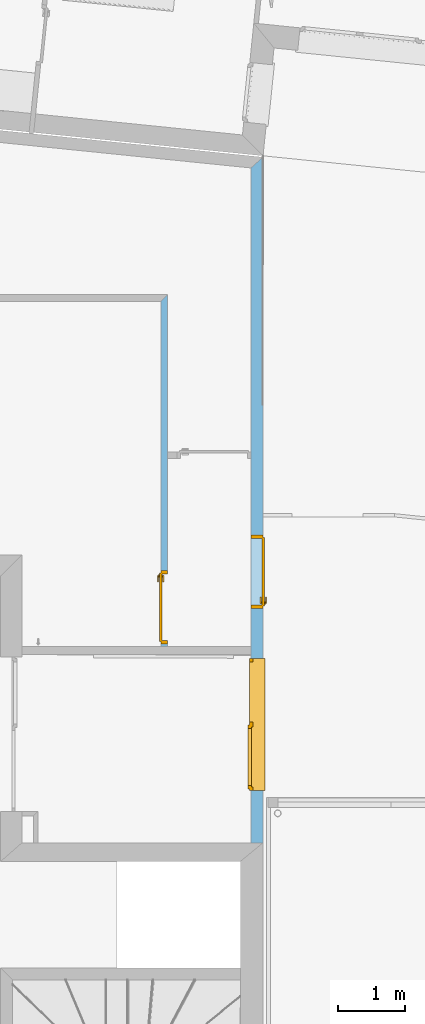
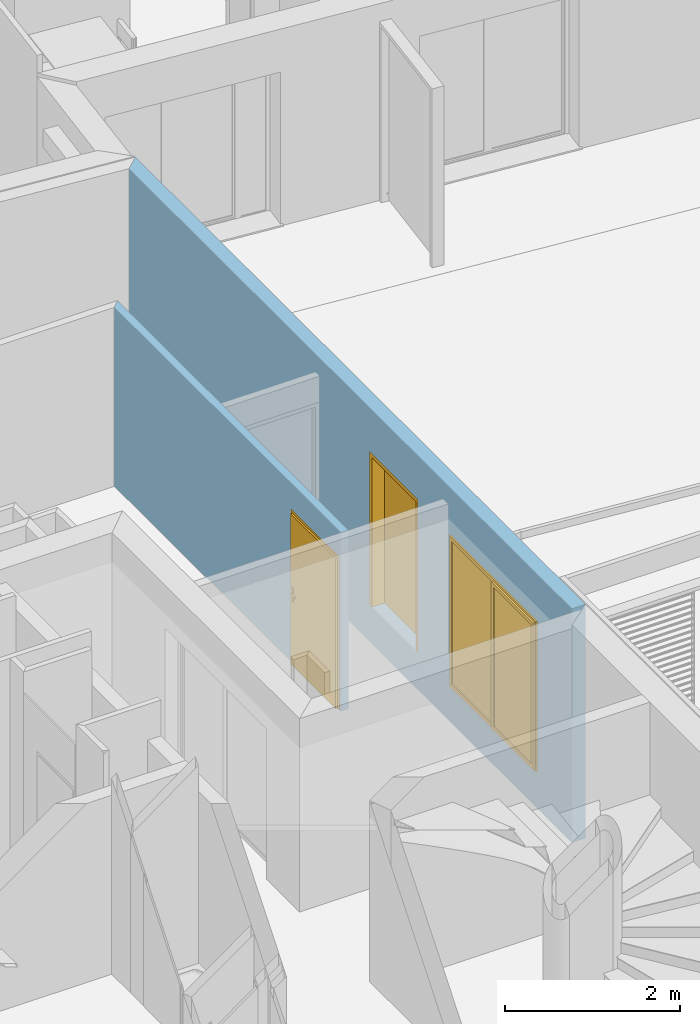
# One storey, part 109 of 171: 2 doors, 1 window, 3 openings, plus 2 elements that do not belong to this part.
"""IFC2X3 building model written with IfcOpenShell, lengths in millimetres."""

from ifc_helpers import new_model, entity, si_unit, converted_unit, derived_unit, money_unit, direction, frame, origin_with_axes, origin_2d_with_axis, place, context, subcontext, project, spatial, polyline, rectangle, outline, extrude, open_shell, faceted_brep, surface_model, material, layer, layer_set, layer_usage, type_object, element, fill, save


model = new_model("IFC2X3")

# Units and contexts
model_context = context("Model", 3, precision=0.01, world=origin_with_axes(), true_north=direction((0.0, 1.0)))
body_context = subcontext(model_context, "Body", "Model", "MODEL_VIEW")
ifc_project = project(units=[si_unit("LENGTHUNIT", "METRE", prefix="MILLI"), si_unit("AREAUNIT", "SQUARE_METRE"), si_unit("VOLUMEUNIT", "CUBIC_METRE"), converted_unit("PLANEANGLEUNIT", "DEGREE", entity("IfcPlaneAngleMeasure", 0.0174532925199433), si_unit("PLANEANGLEUNIT", "RADIAN"), dimensions=[0, 0, 0, 0, 0, 0, 0]), money_unit("USD"), converted_unit("TIMEUNIT", "Year", entity("IfcTimeMeasure", 31557600.0), si_unit("TIMEUNIT", "SECOND"), dimensions=[0, 0, 1, 0, 0, 0, 0]), si_unit("MASSUNIT", "GRAM", prefix="KILO"), si_unit("THERMODYNAMICTEMPERATUREUNIT", "DEGREE_CELSIUS"), si_unit("LUMINOUSINTENSITYUNIT", "LUMEN"), si_unit("ENERGYUNIT", "JOULE", prefix="MEGA"), derived_unit("THERMALCONDUCTANCEUNIT", [(si_unit("POWERUNIT", "WATT"), 1), (si_unit("LENGTHUNIT", "METRE"), -1), (si_unit("THERMODYNAMICTEMPERATUREUNIT", "KELVIN"), -1)]), derived_unit("SPECIFICHEATCAPACITYUNIT", [(si_unit("ENERGYUNIT", "JOULE"), 1), (si_unit("MASSUNIT", "GRAM", prefix="KILO"), -1), (si_unit("THERMODYNAMICTEMPERATUREUNIT", "KELVIN"), -1)]), derived_unit("MASSDENSITYUNIT", [(si_unit("MASSUNIT", "GRAM", prefix="KILO"), 1), (si_unit("VOLUMEUNIT", "CUBIC_METRE"), -1)])], contexts=[model_context])

# Site, building, storey
site_placement = place(None, origin_with_axes())
site = spatial("IfcSite", under=ifc_project, at=site_placement, Name="Site", CompositionType="ELEMENT")
building_placement = place(site_placement, origin_with_axes())
building = spatial("IfcBuilding", under=site, at=building_placement, Name="Bâtiment", CompositionType="ELEMENT")
storey_placement = place(building_placement, frame((0.0, 0.0, 3000.0), z_axis=(0.0, 0.0, 1.0), x_axis=(1.0, 0.0, 0.0)))
storey = spatial("IfcBuildingStorey", under=building, at=storey_placement, Name="rdc", CompositionType="ELEMENT", Elevation=3000.0)

# Wall, opening, door
ifc_material_1 = material(Name="Brique 1 268964100")
ifc_layer_1 = layer(ifc_material_1, 100.0, ventilated="UNKNOWN")
ifc_layer_set_1 = layer_set([ifc_layer_1], Name="Cloison 100 gaine")
ifc_layer_usage_1 = layer_usage(ifc_layer_set_1, "AXIS2", "POSITIVE", 0.0)
wall_type_1 = type_object("IfcWallType", Name="Cloison 100 gaine 100", PredefinedType="NOTDEFINED")
wall_1_placement = place(storey_placement, frame((2228223.476037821, -629505.4724459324, 0.0), z_axis=(0.0, 0.0, 1.0), x_axis=(0.0, 1.0, 0.0)))
wall_1 = element("IfcWallStandardCase", 1, at=wall_1_placement, inside=storey, type_object=wall_type_1, material=ifc_layer_usage_1, Name="Mur-133", context=body_context, shape_type="SweptSolid", body=[
    extrude(outline(polyline([(119.9999999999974, 0.0), (5407.290801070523, 0.0), (5307.290801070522, 100.0000000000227), (119.9999999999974, 100.0000000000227), (119.9999999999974, 0.0)])), origin_with_axes(), (0.0, 0.0, 1.0), 2500.0),
])
opening_1_placement = place(wall_1_placement, frame((711.860139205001, 2.273736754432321e-10, 0.0), z_axis=(0.0, 0.0, 1.0), x_axis=(1.0, 0.0, 0.0)))
opening_1 = element("IfcOpeningElement", 2, at=opening_1_placement, cuts=wall_1, Name="Por-301", context=body_context, shape_type="SweptSolid", body=[
    extrude(rectangle(XDim=1109.999997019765, YDim=2140.0, at=origin_2d_with_axis()), frame((1.490114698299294e-06, -100.0000000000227, 1070.0), z_axis=(0.0, -1.0, 0.0), x_axis=(-1.0, 0.0, 0.0)), (0.0, 0.0, -1.0), 200.0),
])
door_style = type_object("IfcDoorStyle", Name="Porte_1v", ConstructionType="NOTDEFINED", OperationType="NOTDEFINED", ParameterTakesPrecedence=False, Sizeable=False)
door_1_placement = place(opening_1_placement, frame((-514.9999999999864, 2.273736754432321e-10, 0.0), z_axis=(0.0, 0.0, 1.0), x_axis=(1.0, 0.0, 0.0)))
door_1 = element("IfcDoor", 3, at=door_1_placement, inside=storey, type_object=door_style, Name="Por-301", OverallHeight=2100.0, OverallWidth=1030.0, context=body_context, shape_type="Brep", body=[
    faceted_brep([(-39.99999999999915, 100.0000000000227, 0.0), (-39.99999999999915, 100.0000000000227, 2140.0), (1070.0, 100.0000000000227, 2140.0), (1070.0, 100.0000000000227, 0.0), (1030.000000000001, 100.0000000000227, 0.0), (1030.000000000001, 100.0000000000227, 2100.0), (0.0, 100.0000000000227, 2100.0), (0.0, 100.0000000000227, 0.0), (-39.99999999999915, 0.0, 0.0), (-39.99999999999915, 0.0, 2140.0), (1070.0, 0.0, 2140.0), (1070.0, 0.0, 0.0), (1015.000000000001, 0.0, 0.0), (1015.000000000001, 85.00000000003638, 0.0), (1030.000000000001, 85.00000000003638, 0.0), (1030.000000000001, 85.00000000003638, 2100.0), (0.0, 85.00000000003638, 2100.0), (0.0, 85.00000000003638, 0.0), (15.00000000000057, 85.00000000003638, 0.0), (15.00000000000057, 0.0, 0.0), (15.00000000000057, 0.0, 2085.0), (1015.000000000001, 0.0, 2085.0), (1015.000000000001, 85.00000000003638, 2085.0), (15.00000000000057, 85.00000000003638, 2085.0)], [[[0, 1, 2, 3, 4, 5, 6, 7]], [[8, 9, 1, 0]], [[9, 10, 2, 1]], [[10, 11, 3, 2]], [[3, 11, 12, 13, 14, 4]], [[5, 4, 14, 15]], [[6, 5, 15, 16]], [[7, 6, 16, 17]], [[0, 7, 17, 18, 19, 8]], [[19, 20, 21, 12, 11, 10, 9, 8]], [[22, 13, 12, 21]], [[17, 16, 15, 14, 13, 22, 23, 18]], [[18, 23, 20, 19]], [[23, 22, 21, 20]]]),
    faceted_brep([(965.0000000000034, 85.00000000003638, 899.9999999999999), (965.0000000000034, 85.00000000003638, 1100.0), (1005.000000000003, 85.00000000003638, 1100.0), (1005.000000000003, 85.00000000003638, 899.9999999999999), (965.0000000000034, 75.00000000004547, 899.9999999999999), (965.0000000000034, 75.00000000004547, 1100.0), (1005.000000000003, 75.00000000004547, 1100.0), (1005.000000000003, 75.00000000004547, 899.9999999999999)], [[[0, 1, 2, 3]], [[0, 4, 5, 1]], [[1, 5, 6, 2]], [[2, 6, 7, 3]], [[3, 7, 4, 0]], [[7, 6, 5, 4]]]),
    faceted_brep([(895.0000000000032, 75.00000000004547, 999.9999999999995), (895.0000000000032, 75.00000000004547, 1020.0), (994.9999999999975, 75.00000000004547, 1020.0), (994.9999999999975, 75.00000000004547, 999.9999999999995), (895.0000000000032, 55.00000000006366, 999.9999999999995), (895.0000000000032, 55.00000000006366, 1020.0), (994.9999999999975, 55.00000000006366, 1020.0), (994.9999999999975, 55.00000000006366, 999.9999999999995)], [[[0, 1, 2, 3]], [[0, 4, 5, 1]], [[1, 5, 6, 2]], [[2, 6, 7, 3]], [[3, 7, 4, 0]], [[7, 6, 5, 4]]]),
    faceted_brep([(965.0000000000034, 134.9999999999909, 899.9999999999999), (965.0000000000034, 134.9999999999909, 1100.0), (1005.000000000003, 134.9999999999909, 1100.0), (1005.000000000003, 134.9999999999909, 899.9999999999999), (965.0000000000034, 125.0, 899.9999999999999), (965.0000000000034, 125.0, 1100.0), (1005.000000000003, 125.0, 1100.0), (1005.000000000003, 125.0, 899.9999999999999)], [[[0, 1, 2, 3]], [[0, 4, 5, 1]], [[1, 5, 6, 2]], [[2, 6, 7, 3]], [[3, 7, 4, 0]], [[7, 6, 5, 4]]]),
    faceted_brep([(895.0000000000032, 154.9999999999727, 999.9999999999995), (895.0000000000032, 154.9999999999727, 1020.0), (994.9999999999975, 154.9999999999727, 1020.0), (994.9999999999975, 154.9999999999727, 999.9999999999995), (895.0000000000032, 134.9999999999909, 999.9999999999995), (895.0000000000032, 134.9999999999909, 1020.0), (994.9999999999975, 134.9999999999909, 1020.0), (994.9999999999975, 134.9999999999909, 999.9999999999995)], [[[0, 1, 2, 3]], [[0, 4, 5, 1]], [[1, 5, 6, 2]], [[2, 6, 7, 3]], [[3, 7, 4, 0]], [[7, 6, 5, 4]]]),
    faceted_brep([(1030.000000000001, 125.0, 0.0), (1030.000000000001, 85.00000000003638, 0.0), (0.0, 85.00000000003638, 0.0), (0.0, 125.0, 0.0), (1030.000000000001, 125.0, 2100.0), (1030.000000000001, 85.00000000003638, 2100.0), (0.0, 85.00000000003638, 2100.0), (0.0, 125.0, 2100.0)], [[[0, 1, 2, 3]], [[4, 5, 1, 0]], [[1, 5, 6, 2]], [[3, 2, 6, 7]], [[0, 3, 7, 4]], [[7, 6, 5, 4]]]),
])
fill(opening_1, door_1)

# Wall, openings, door, window
ifc_material_2 = material(Name="Parpaing 312445824")
ifc_layer_2 = layer(ifc_material_2, 180.0, ventilated="UNKNOWN")
ifc_layer_set_2 = layer_set([ifc_layer_2], Name="Beton  18 0836643197")
ifc_layer_usage_2 = layer_usage(ifc_layer_set_2, "AXIS2", "POSITIVE", 0.0)
wall_type_2 = type_object("IfcWallType", Name="Beton  18 0836643197 180", PredefinedType="NOTDEFINED")
wall_2_placement = place(storey_placement, frame((2229653.476037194, -632613.5146792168, -520.0), z_axis=(0.0, 0.0, 1.0), x_axis=(1.956349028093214e-10, 1.0, 0.0)))
wall_2 = element("IfcWallStandardCase", 4, at=wall_2_placement, inside=storey, type_object=wall_type_2, material=ifc_layer_usage_2, Name="Mur-144", context=body_context, shape_type="SweptSolid", body=[
    extrude(outline(polyline([(280.0000000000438, -1.13686837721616e-10), (10580.98484222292, 0.0), (10418.35007204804, 179.99999999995), (279.9999999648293, 179.9999999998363), (280.0000000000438, -1.13686837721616e-10)])), origin_with_axes(), (0.0, 0.0, 1.0), 3270.0),
])
opening_2_placement = place(wall_2_placement, frame((2058.289965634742, 1.13686837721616e-10, 520.0000000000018), z_axis=(0.0, 0.0, 1.0), x_axis=(1.0, 0.0, 0.0)))
opening_2 = element("IfcOpeningElement", 5, at=opening_2_placement, cuts=wall_2, Name="Fen-155", context=body_context, shape_type="SweptSolid", body=[
    extrude(rectangle(XDim=1984.662541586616, YDim=2100.0, at=origin_2d_with_axis()), frame((-2.934541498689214e-08, 150.000000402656, 1050.0), z_axis=(-1.956348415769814e-10, 1.0, 0.0), x_axis=(1.0, 1.956348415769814e-10, 0.0)), (0.0, 0.0, -1.0), 329.9999999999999),
    extrude(rectangle(XDim=1984.662541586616, YDim=2100.0, at=origin_2d_with_axis()), frame((-2.934541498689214e-08, 150.0000004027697, 1050.0), z_axis=(1.956348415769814e-10, -1.0, 0.0), x_axis=(1.0, 1.956348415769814e-10, 0.0)), (0.0, 0.0, -1.0), 210.0),
])
opening_3_placement = place(wall_2_placement, frame((4352.824355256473, 1.13686837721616e-10, 520.0000000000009), z_axis=(0.0, 0.0, 1.0), x_axis=(1.0, 0.0, 0.0)))
opening_3 = element("IfcOpeningElement", 6, at=opening_3_placement, cuts=wall_2, Name="Por-301", context=body_context, shape_type="SweptSolid", body=[
    extrude(rectangle(XDim=1109.999997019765, YDim=2140.0, at=origin_2d_with_axis()), frame((-1.525329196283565e-06, 179.99999999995, 1070.0), z_axis=(-1.956347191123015e-10, 1.0, 0.0), x_axis=(1.0, 1.956347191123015e-10, 0.0)), (0.0, 0.0, -1.0), 360.0),
])
door_2_placement = place(opening_3_placement, frame((515.0000000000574, -1.13686837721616e-10, 0.0), z_axis=(0.0, 0.0, 1.0), x_axis=(-1.0, 0.0, 0.0)))
door_2 = element("IfcDoor", 7, at=door_2_placement, inside=storey, type_object=door_style, Name="Por-301", OverallHeight=2100.0, OverallWidth=1030.0, context=body_context, shape_type="Brep", body=[
    faceted_brep([(-39.99999999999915, -9.600853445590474e-07, 0.0), (-39.99999999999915, -9.600853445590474e-07, 2140.0), (1070.0, -7.429434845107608e-07, 2140.0), (1070.0, -7.429434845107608e-07, 0.0), (1030.000000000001, -7.507878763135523e-07, 0.0), (1030.000000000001, -7.507878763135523e-07, 2100.0), (0.0, -9.522409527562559e-07, 2100.0), (0.0, -9.522409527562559e-07, 0.0), (-39.99999996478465, -180.0000009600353, 0.0), (-39.99999996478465, -180.0000009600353, 2140.0), (1070.000000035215, -180.0000007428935, 2140.0), (1070.000000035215, -180.0000007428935, 0.0), (1015.000000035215, -180.0000007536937, 0.0), (1015.000000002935, -15.00000075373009, 0.0), (1030.000000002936, -15.00000075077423, 0.0), (1030.000000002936, -15.00000075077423, 2100.0), (2.934541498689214e-09, -15.00000095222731, 2100.0), (2.934541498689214e-09, -15.00000095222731, 0.0), (15.00000000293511, -15.00000094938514, 0.0), (15.00000003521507, -180.0000009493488, 0.0), (15.00000003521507, -180.0000009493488, 2085.0), (1015.000000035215, -180.0000007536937, 2085.0), (1015.000000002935, -15.00000075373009, 2085.0), (15.00000000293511, -15.00000094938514, 2085.0)], [[[0, 1, 2, 3, 4, 5, 6, 7]], [[8, 9, 1, 0]], [[9, 10, 2, 1]], [[10, 11, 3, 2]], [[3, 11, 12, 13, 14, 4]], [[5, 4, 14, 15]], [[6, 5, 15, 16]], [[7, 6, 16, 17]], [[0, 7, 17, 18, 19, 8]], [[19, 20, 21, 12, 11, 10, 9, 8]], [[22, 13, 12, 21]], [[17, 16, 15, 14, 13, 22, 23, 18]], [[18, 23, 20, 19]], [[23, 22, 21, 20]]]),
    faceted_brep([(965.0000000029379, -15.00000076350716, 899.9999999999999), (965.0000000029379, -15.00000076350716, 1100.0), (1005.000000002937, -15.00000075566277, 1100.0), (1005.000000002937, -15.00000075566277, 899.9999999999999), (965.000000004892, -25.00000076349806, 899.9999999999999), (965.000000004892, -25.00000076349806, 1100.0), (1005.000000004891, -25.00000075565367, 1100.0), (1005.000000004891, -25.00000075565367, 899.9999999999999)], [[[0, 1, 2, 3]], [[0, 4, 5, 1]], [[1, 5, 6, 2]], [[2, 6, 7, 3]], [[3, 7, 4, 0]], [[7, 6, 5, 4]]]),
    faceted_brep([(895.0000000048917, -25.00000077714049, 1000.0), (895.0000000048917, -25.00000077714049, 1020.0), (995.000000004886, -25.00000075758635, 1020.0), (995.000000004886, -25.00000075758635, 1000.0), (895.0000000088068, -45.0000007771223, 1000.0), (895.0000000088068, -45.0000007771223, 1020.0), (995.0000000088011, -45.00000075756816, 1020.0), (995.0000000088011, -45.00000075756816, 1000.0)], [[[0, 1, 2, 3]], [[0, 4, 5, 1]], [[1, 5, 6, 2]], [[2, 6, 7, 3]], [[3, 7, 4, 0]], [[7, 6, 5, 4]]]),
    faceted_brep([(964.9999999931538, 34.99999923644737, 899.9999999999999), (964.9999999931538, 34.99999923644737, 1100.0), (1004.999999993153, 34.99999924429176, 1100.0), (1004.999999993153, 34.99999924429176, 899.9999999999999), (964.9999999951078, 24.99999923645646, 899.9999999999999), (964.9999999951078, 24.99999923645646, 1100.0), (1004.999999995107, 24.99999924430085, 1100.0), (1004.999999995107, 24.99999924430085, 899.9999999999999)], [[[0, 1, 2, 3]], [[0, 4, 5, 1]], [[1, 5, 6, 2]], [[2, 6, 7, 3]], [[3, 7, 4, 0]], [[7, 6, 5, 4]]]),
    faceted_brep([(894.9999999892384, 54.99999922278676, 1000.0), (894.9999999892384, 54.99999922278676, 1020.0), (994.9999999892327, 54.99999924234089, 1020.0), (994.9999999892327, 54.99999924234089, 1000.0), (894.9999999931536, 34.99999922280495, 1000.0), (894.9999999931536, 34.99999922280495, 1020.0), (994.9999999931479, 34.99999924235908, 1020.0), (994.9999999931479, 34.99999924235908, 1000.0)], [[[0, 1, 2, 3]], [[0, 4, 5, 1]], [[1, 5, 6, 2]], [[2, 6, 7, 3]], [[3, 7, 4, 0]], [[7, 6, 5, 4]]]),
    faceted_brep([(1029.999999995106, 24.99999924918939, 0.0), (1030.000000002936, -15.00000075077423, 0.0), (2.934541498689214e-09, -15.00000095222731, 0.0), (-4.89563944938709e-09, 24.99999904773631, 0.0), (1029.999999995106, 24.99999924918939, 2100.0), (1030.000000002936, -15.00000075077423, 2100.0), (2.934541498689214e-09, -15.00000095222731, 2100.0), (-4.89563944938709e-09, 24.99999904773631, 2100.0)], [[[0, 1, 2, 3]], [[4, 5, 1, 0]], [[1, 5, 6, 2]], [[3, 2, 6, 7]], [[0, 3, 7, 4]], [[7, 6, 5, 4]]]),
])
fill(opening_3, door_2)
window_style = type_object("IfcWindowStyle", Name="Fenêtre variable 27", ConstructionType="NOTDEFINED", OperationType="DOUBLE_PANEL_VERTICAL", ParameterTakesPrecedence=False, Sizeable=False)
window_placement = place(opening_2_placement, frame((-992.3312707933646, -1.13686837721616e-10, 0.0), z_axis=(0.0, 0.0, 1.0), x_axis=(1.0, 0.0, 0.0)))
window = element("IfcWindow", 8, at=window_placement, inside=storey, type_object=window_style, Name="Fen-155", OverallHeight=2100.0, OverallWidth=1984.66, context=body_context, shape_type="SurfaceModel", body=[
    surface_model("IfcShellBasedSurfaceModel", [(-2.914646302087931e-08, 149.0000002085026, 49.99999999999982), (-2.914646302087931e-08, 149.0000002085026, 40.00000000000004), (1984.662541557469, 149.0000005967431, 40.00000000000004), (1984.662541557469, 149.0000005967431, 50.00000000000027), (5.869082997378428e-09, -29.99999979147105, 28.00000000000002), (1984.662541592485, -29.9999994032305, 28.00000000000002), (5.869082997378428e-09, -29.99999979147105, 8.000000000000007), (1984.662541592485, -29.9999994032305, 8.000000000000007), (3.915090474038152e-09, -19.99999979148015, 17.99999999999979), (1984.662541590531, -19.9999994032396, 18.00000000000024)], [open_shell([[[0, 1, 2, 3]], [[1, 4, 5, 2]], [[4, 6, 7, 5]], [[6, 8, 9, 7]]])]),
    faceted_brep([(24.9999999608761, 200.0000002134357, 2050.000000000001), (-3.912248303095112e-08, 200.0000002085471, 2050.000000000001), (-2.934541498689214e-08, 150.0000002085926, 2050.000000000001), (49.99999997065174, 150.0000002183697, 2050.000000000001), (49.99999996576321, 175.0000002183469, 2050.000000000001), (24.99999996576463, 175.0000002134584, 2050.000000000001), (24.9999999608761, 200.0000002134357, 50.00000000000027), (-3.912248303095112e-08, 200.0000002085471, 50.00000000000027), (-2.934541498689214e-08, 150.0000002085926, 49.99999999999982), (49.99999997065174, 150.0000002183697, 49.99999999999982), (49.99999996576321, 175.0000002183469, 49.99999999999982), (24.99999996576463, 175.0000002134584, 50.00000000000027)], [[[0, 1, 2, 3, 4, 5]], [[6, 7, 1, 0]], [[1, 7, 8, 2]], [[2, 8, 9, 3]], [[4, 3, 9, 10]], [[10, 11, 5, 4]], [[5, 11, 6, 0]], [[11, 10, 9, 8, 7, 6]]]),
    faceted_brep([(957.4086602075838, 175.0000003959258, 2050.000000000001), (957.4086602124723, 150.0000003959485, 2050.000000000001), (1027.408660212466, 150.0000004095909, 2050.000000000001), (1027.408660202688, 200.0000004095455, 2050.000000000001), (982.4086602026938, 200.0000004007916, 2050.000000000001), (982.4086602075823, 175.0000004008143, 2050.000000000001), (957.4086602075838, 175.0000003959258, 49.99999999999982), (957.4086602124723, 150.0000003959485, 49.99999999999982), (1027.408660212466, 150.0000004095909, 49.99999999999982), (1027.408660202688, 200.0000004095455, 50.00000000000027), (982.4086602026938, 200.0000004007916, 50.00000000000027), (982.4086602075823, 175.0000004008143, 49.99999999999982)], [[[0, 1, 2, 3, 4, 5]], [[6, 7, 1, 0]], [[8, 2, 1, 7]], [[9, 3, 2, 8]], [[4, 3, 9, 10]], [[10, 11, 5, 4]], [[5, 11, 6, 0]], [[11, 10, 9, 8, 7, 6]]]),
    faceted_brep([(957.4086602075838, 175.0000003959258, 49.99999999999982), (957.4086602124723, 150.0000003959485, 49.99999999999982), (1027.408660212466, 150.0000004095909, 49.99999999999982), (1027.408660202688, 200.0000004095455, 50.00000000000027), (982.4086602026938, 200.0000004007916, 50.00000000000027), (982.4086602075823, 175.0000004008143, 49.99999999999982), (49.99999996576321, 175.0000002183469, 49.99999999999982), (49.99999997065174, 150.0000002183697, 49.99999999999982), (-2.934541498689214e-08, 150.0000002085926, 49.99999999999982), (-2.934541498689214e-08, 150.0000002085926, 0.0), (1984.66254155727, 150.0000005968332, 0.0), (1984.66254155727, 150.0000005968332, 49.99999999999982), (1934.662541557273, 150.0000005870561, 49.99999999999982), (1934.662541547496, 200.0000005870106, 50.00000000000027), (24.9999999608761, 200.0000002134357, 24.99999999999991), (982.4086602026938, 200.0000004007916, 24.99999999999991), (1984.662541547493, 200.0000005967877, 50.00000000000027), (1984.662541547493, 200.0000005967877, 0.0), (-3.912248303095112e-08, 200.0000002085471, 0.0), (-3.912248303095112e-08, 200.0000002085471, 50.00000000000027), (24.9999999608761, 200.0000002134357, 50.00000000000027), (982.4086602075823, 175.0000004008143, 24.99999999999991), (24.99999996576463, 175.0000002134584, 24.99999999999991), (24.99999996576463, 175.0000002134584, 50.00000000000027)], [[[0, 1, 2, 3, 4, 5]], [[6, 7, 1, 0]], [[8, 9, 10, 11, 12, 2, 1, 7]], [[13, 3, 2, 12]], [[14, 15, 4, 3, 13, 16, 17, 18, 19, 20]], [[15, 21, 5, 4]], [[5, 21, 22, 23, 6, 0]], [[23, 20, 19, 8, 7, 6]], [[19, 18, 9, 8]], [[18, 17, 10, 9]], [[17, 16, 11, 10]], [[16, 13, 12, 11]], [[14, 22, 21, 15]], [[23, 22, 14, 20]]]),
    faceted_brep([(24.9999999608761, 200.0000002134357, 2050.000000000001), (-3.912248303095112e-08, 200.0000002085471, 2050.000000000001), (-3.912248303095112e-08, 200.0000002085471, 2100.0), (1984.662541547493, 200.0000005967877, 2100.0), (1984.662541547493, 200.0000005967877, 2050.000000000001), (1934.662541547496, 200.0000005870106, 2050.000000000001), (1027.408660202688, 200.0000004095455, 2050.000000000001), (982.4086602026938, 200.0000004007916, 2050.000000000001), (982.4086602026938, 200.0000004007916, 2075.0), (24.9999999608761, 200.0000002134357, 2075.0), (24.99999996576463, 175.0000002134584, 2050.000000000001), (49.99999996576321, 175.0000002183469, 2050.000000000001), (49.99999997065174, 150.0000002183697, 2050.000000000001), (-2.934541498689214e-08, 150.0000002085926, 2050.000000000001), (-2.934541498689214e-08, 150.0000002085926, 2100.0), (1984.66254155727, 150.0000005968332, 2100.0), (1984.66254155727, 150.0000005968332, 2050.000000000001), (1934.662541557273, 150.0000005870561, 2050.000000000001), (1027.408660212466, 150.0000004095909, 2050.000000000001), (982.4086602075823, 175.0000004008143, 2050.000000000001), (957.4086602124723, 150.0000003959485, 2050.000000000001), (957.4086602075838, 175.0000003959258, 2050.000000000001), (982.4086602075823, 175.0000004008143, 2075.0), (24.99999996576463, 175.0000002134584, 2075.0)], [[[0, 1, 2, 3, 4, 5, 6, 7, 8, 9]], [[10, 11, 12, 13, 1, 0]], [[2, 1, 13, 14]], [[3, 2, 14, 15]], [[4, 3, 15, 16]], [[5, 4, 16, 17]], [[6, 5, 17, 18]], [[19, 7, 6, 18, 20, 21]], [[7, 19, 22, 8]], [[8, 22, 23, 9]], [[9, 23, 10, 0]], [[21, 11, 10, 23, 22, 19]], [[21, 20, 12, 11]], [[18, 17, 16, 15, 14, 13, 12, 20]]]),
    faceted_brep([(1934.662541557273, 150.0000005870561, 49.99999999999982), (1934.662541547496, 200.0000005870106, 49.99999999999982), (1984.662541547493, 200.0000005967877, 49.99999999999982), (1984.66254155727, 150.0000005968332, 49.99999999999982), (1934.662541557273, 150.0000005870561, 2050.000000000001), (1934.662541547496, 200.0000005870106, 2050.000000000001), (1984.662541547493, 200.0000005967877, 2050.000000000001), (1984.66254155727, 150.0000005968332, 2050.000000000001)], [[[0, 1, 2, 3]], [[4, 5, 1, 0]], [[1, 5, 6, 2]], [[3, 2, 6, 7]], [[0, 3, 7, 4]], [[7, 6, 5, 4]]]),
    faceted_brep([(74.9999999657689, 175.0000002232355, 2025.0), (74.99999995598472, 225.00000022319, 2025.0), (24.99999995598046, 225.0000002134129, 2025.0), (24.99999996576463, 175.0000002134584, 2025.0), (74.9999999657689, 175.0000002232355, 75.00000000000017), (74.99999995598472, 225.00000022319, 75.00000000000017), (24.99999995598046, 225.0000002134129, 75.00000000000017), (24.99999996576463, 175.0000002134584, 75.00000000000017)], [[[0, 1, 2, 3]], [[4, 5, 1, 0]], [[1, 5, 6, 2]], [[3, 2, 6, 7]], [[0, 3, 7, 4]], [[7, 6, 5, 4]]]),
    faceted_brep([(932.4086602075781, 175.0000003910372, 75.00000000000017), (932.4086601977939, 225.0000003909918, 75.00000000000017), (982.4086601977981, 225.0000004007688, 75.00000000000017), (982.4086602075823, 175.0000004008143, 75.00000000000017), (932.4086602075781, 175.0000003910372, 2025.0), (932.4086601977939, 225.0000003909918, 2025.0), (982.4086601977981, 225.0000004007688, 2025.0), (982.4086602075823, 175.0000004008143, 2025.0)], [[[0, 1, 2, 3]], [[4, 5, 1, 0]], [[1, 5, 6, 2]], [[3, 2, 6, 7]], [[0, 3, 7, 4]], [[7, 6, 5, 4]]]),
    faceted_brep([(982.4086602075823, 175.0000004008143, 24.99999999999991), (982.4086601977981, 225.0000004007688, 24.99999999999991), (982.4086601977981, 225.0000004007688, 75.00000000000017), (982.4086602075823, 175.0000004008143, 75.00000000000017), (24.99999996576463, 175.0000002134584, 24.99999999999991), (24.99999995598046, 225.0000002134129, 24.99999999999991), (24.99999995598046, 225.0000002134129, 75.00000000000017), (74.99999995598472, 225.00000022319, 75.00000000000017), (932.4086601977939, 225.0000003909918, 75.00000000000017), (932.4086602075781, 175.0000003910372, 75.00000000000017), (74.9999999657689, 175.0000002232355, 75.00000000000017), (24.99999996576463, 175.0000002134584, 75.00000000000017)], [[[0, 1, 2, 3]], [[4, 5, 1, 0]], [[1, 5, 6, 7, 8, 2]], [[3, 2, 8, 9]], [[0, 3, 9, 10, 11, 4]], [[11, 6, 5, 4]], [[10, 7, 6, 11]], [[9, 8, 7, 10]]]),
    faceted_brep([(24.99999996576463, 175.0000002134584, 2075.0), (24.99999995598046, 225.0000002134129, 2075.0), (24.99999995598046, 225.0000002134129, 2025.0), (24.99999996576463, 175.0000002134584, 2025.0), (982.4086602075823, 175.0000004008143, 2075.0), (982.4086601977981, 225.0000004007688, 2075.0), (982.4086601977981, 225.0000004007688, 2025.0), (932.4086601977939, 225.0000003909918, 2025.0), (74.99999995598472, 225.00000022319, 2025.0), (74.9999999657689, 175.0000002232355, 2025.0), (932.4086602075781, 175.0000003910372, 2025.0), (982.4086602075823, 175.0000004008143, 2025.0)], [[[0, 1, 2, 3]], [[4, 5, 1, 0]], [[1, 5, 6, 7, 8, 2]], [[3, 2, 8, 9]], [[0, 3, 9, 10, 11, 4]], [[11, 6, 5, 4]], [[10, 7, 6, 11]], [[9, 8, 7, 10]]]),
    surface_model("IfcShellBasedSurfaceModel", [(74.99999996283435, 190.0000002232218, 75.00000000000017), (932.4086602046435, 190.0000003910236, 75.00000000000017), (932.4086602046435, 190.0000003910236, 2025.0), (74.99999996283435, 190.0000002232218, 2025.0)], [open_shell([[[0, 1, 2, 3]]])]),
    surface_model("IfcShellBasedSurfaceModel", [(74.99999995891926, 210.0000002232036, 75.00000000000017), (74.99999995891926, 210.0000002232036, 2025.0), (932.4086602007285, 210.0000003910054, 2025.0), (932.4086602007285, 210.0000003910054, 75.00000000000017)], [open_shell([[[0, 1, 2, 3]]])]),
    surface_model("IfcShellBasedSurfaceModel", [(1027.408660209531, 165.0000004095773, 49.99999999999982), (1934.662541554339, 165.0000005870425, 49.99999999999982), (1934.662541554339, 165.0000005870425, 2050.000000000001), (1027.408660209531, 165.0000004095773, 2050.000000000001)], [open_shell([[[0, 1, 2, 3]]])]),
    surface_model("IfcShellBasedSurfaceModel", [(1027.408660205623, 185.0000004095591, 49.99999999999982), (1027.408660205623, 185.0000004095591, 2050.000000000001), (1934.662541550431, 185.0000005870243, 2050.000000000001), (1934.662541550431, 185.0000005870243, 49.99999999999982)], [open_shell([[[0, 1, 2, 3]]])]),
])
fill(opening_2, window)

save(model, "model.ifc")
